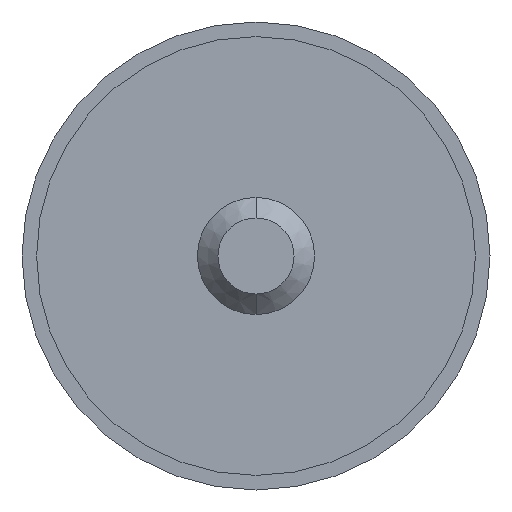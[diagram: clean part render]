
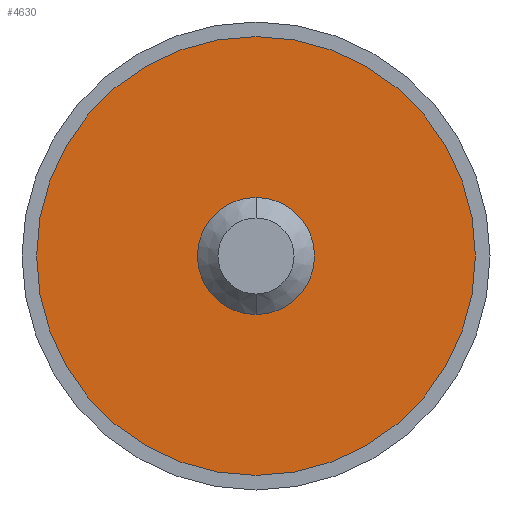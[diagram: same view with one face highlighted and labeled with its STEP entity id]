
A CAD part, front view. The second image highlights one B-rep face of the part: STEP entity #4630.
In plain terms, the highlighted planar face has unit normal (0, -1, 0).
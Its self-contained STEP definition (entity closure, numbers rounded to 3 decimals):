
#12 = AXIS2_PLACEMENT_3D ( 'NONE', #4405, #2555, #2160 ) ;
#28 = DIRECTION ( 'NONE',  ( 0., 1., 0. ) ) ;
#156 = ORIENTED_EDGE ( 'NONE', *, *, #1977, .F. ) ;
#159 = DIRECTION ( 'NONE',  ( 0., 1., 0. ) ) ;
#317 = EDGE_CURVE ( 'NONE', #793, #2062, #2483, .T. ) ;
#352 = DIRECTION ( 'NONE',  ( 0., 1., 0. ) ) ;
#366 = DIRECTION ( 'NONE',  ( 0., 0., 1. ) ) ;
#384 = CARTESIAN_POINT ( 'NONE',  ( 0., -1., 2. ) ) ;
#598 = AXIS2_PLACEMENT_3D ( 'NONE', #1415, #352, #366 ) ;
#741 = DIRECTION ( 'NONE',  ( 0., 0., 1. ) ) ;
#772 = DIRECTION ( 'NONE',  ( 0., 0., -1. ) ) ;
#793 = VERTEX_POINT ( 'NONE', #1035 ) ;
#928 = CIRCLE ( 'NONE', #3765, 7.5 ) ;
#1031 = AXIS2_PLACEMENT_3D ( 'NONE', #4032, #1843, #772 ) ;
#1035 = CARTESIAN_POINT ( 'NONE',  ( 0., -1., -2. ) ) ;
#1072 = ORIENTED_EDGE ( 'NONE', *, *, #1198, .F. ) ;
#1198 = EDGE_CURVE ( 'NONE', #2062, #793, #3220, .T. ) ;
#1384 = VERTEX_POINT ( 'NONE', #1655 ) ;
#1415 = CARTESIAN_POINT ( 'NONE',  ( 0., -1., 0. ) ) ;
#1536 = AXIS2_PLACEMENT_3D ( 'NONE', #4177, #159, #4554 ) ;
#1579 = ORIENTED_EDGE ( 'NONE', *, *, #317, .F. ) ;
#1655 = CARTESIAN_POINT ( 'NONE',  ( 0., -1., -7.5 ) ) ;
#1843 = DIRECTION ( 'NONE',  ( 0., -1., 0. ) ) ;
#1977 = EDGE_CURVE ( 'NONE', #4028, #1384, #4118, .T. ) ;
#2062 = VERTEX_POINT ( 'NONE', #384 ) ;
#2070 = EDGE_LOOP ( 'NONE', ( #156, #2957 ) ) ;
#2160 = DIRECTION ( 'NONE',  ( 0., 0., -1. ) ) ;
#2410 = EDGE_LOOP ( 'NONE', ( #1072, #1579 ) ) ;
#2483 = CIRCLE ( 'NONE', #12, 2. ) ;
#2555 = DIRECTION ( 'NONE',  ( 0., -1., 0. ) ) ;
#2682 = PLANE ( 'NONE',  #1536 ) ;
#2954 = FACE_BOUND ( 'NONE', #2410, .T. ) ;
#2957 = ORIENTED_EDGE ( 'NONE', *, *, #3928, .F. ) ;
#3220 = CIRCLE ( 'NONE', #1031, 2. ) ;
#3295 = CARTESIAN_POINT ( 'NONE',  ( 0., -1., 0. ) ) ;
#3765 = AXIS2_PLACEMENT_3D ( 'NONE', #3295, #28, #741 ) ;
#3928 = EDGE_CURVE ( 'NONE', #1384, #4028, #928, .T. ) ;
#4028 = VERTEX_POINT ( 'NONE', #4424 ) ;
#4032 = CARTESIAN_POINT ( 'NONE',  ( 0., -1., 0. ) ) ;
#4099 = FACE_OUTER_BOUND ( 'NONE', #2070, .T. ) ;
#4118 = CIRCLE ( 'NONE', #598, 7.5 ) ;
#4177 = CARTESIAN_POINT ( 'NONE',  ( 0., -1., 0. ) ) ;
#4405 = CARTESIAN_POINT ( 'NONE',  ( 0., -1., 0. ) ) ;
#4424 = CARTESIAN_POINT ( 'NONE',  ( 0., -1., 7.5 ) ) ;
#4554 = DIRECTION ( 'NONE',  ( 0., 0., 1. ) ) ;
#4630 = ADVANCED_FACE ( 'NONE', ( #2954, #4099 ), #2682, .F. ) ;
